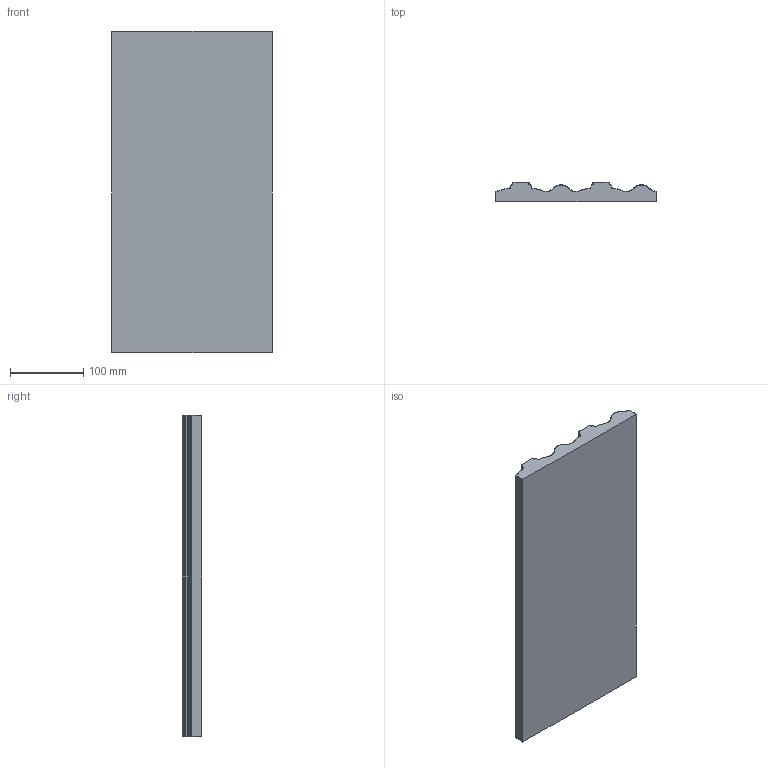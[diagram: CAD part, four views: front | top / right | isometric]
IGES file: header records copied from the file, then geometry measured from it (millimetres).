
Start section: SolidWorks IGES file using analytic representation for surfaces
Global section: file name: C:\Users\KAFLARNIA\Desktop\Modele CeramicWall\MODELE STRONA\Jazz_44x22_IGES.IGS; native system: SolidWorks 2020; preprocessor: SolidWorks 2020; author: KAFLARNIA; date: 220601.155253; units: millimetre
Bounding box: 220 x 26.5 x 440 mm (x, y, z)
Surface area: 228910.7 mm2 (no closed solid volume)
Topology: 0 solids, 0 shells, 123 faces, 1279 edges, 1556 vertices
Faces by surface type: bspline 67, revolution 56
